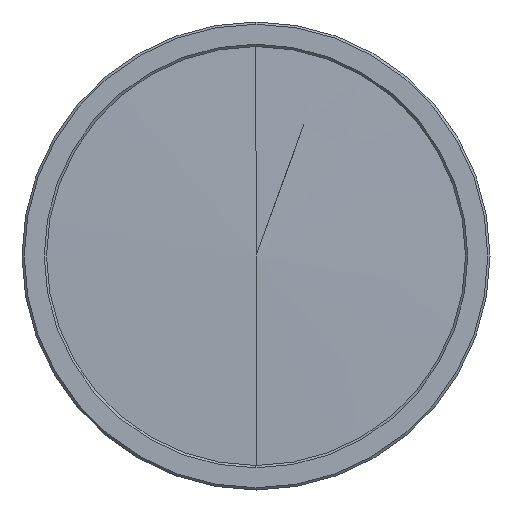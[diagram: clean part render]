
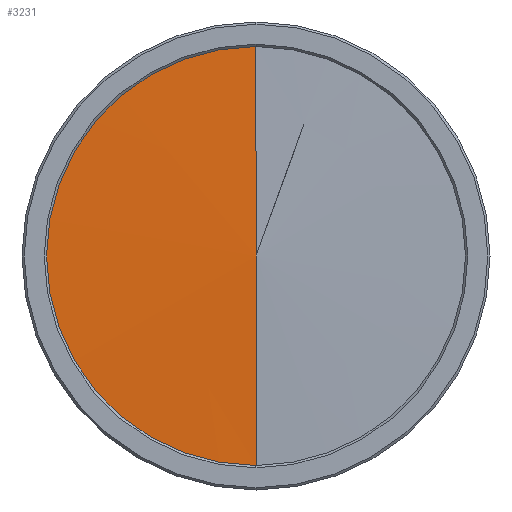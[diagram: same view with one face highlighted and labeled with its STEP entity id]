
A CAD part, left-side view. The second image highlights one B-rep face of the part: STEP entity #3231.
In plain terms, the highlighted conical face has half-angle 88.927 degrees and reference radius 29.134 mm.
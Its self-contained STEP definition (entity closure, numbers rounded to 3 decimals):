
#41 = VERTEX_POINT ( 'NONE', #3250 ) ;
#303 = DIRECTION ( 'NONE',  ( 0., 0., -1. ) ) ;
#327 = CARTESIAN_POINT ( 'NONE',  ( 0.52, 0., 27.75 ) ) ;
#548 = CARTESIAN_POINT ( 'NONE',  ( 0.52, 0., 0. ) ) ;
#679 = FACE_OUTER_BOUND ( 'NONE', #5721, .T. ) ;
#1062 = DIRECTION ( 'NONE',  ( 1., 0., 0. ) ) ;
#1390 = AXIS2_PLACEMENT_3D ( 'NONE', #3533, #3554, #303 ) ;
#1640 = DIRECTION ( 'NONE',  ( 0., 0., -1. ) ) ;
#1997 = CONICAL_SURFACE ( 'NONE', #1390, 29.134, 1.552 ) ;
#2054 = CARTESIAN_POINT ( 'NONE',  ( 0.546, 0., 29.134 ) ) ;
#2082 = DIRECTION ( 'NONE',  ( 1., 0., 0. ) ) ;
#2493 = LINE ( 'NONE', #2054, #6590 ) ;
#2674 = CARTESIAN_POINT ( 'NONE',  ( 0.52, 0., -27.75 ) ) ;
#2698 = EDGE_CURVE ( 'NONE', #5089, #4511, #2493, .T. ) ;
#3077 = VECTOR ( 'NONE', #4184, 1000. ) ;
#3155 = DIRECTION ( 'NONE',  ( 0., 0., -1. ) ) ;
#3231 = ADVANCED_FACE ( 'NONE', ( #679 ), #1997, .T. ) ;
#3250 = CARTESIAN_POINT ( 'NONE',  ( 0.52, 27.75, 0. ) ) ;
#3388 = EDGE_CURVE ( 'NONE', #5205, #41, #4883, .T. ) ;
#3533 = CARTESIAN_POINT ( 'NONE',  ( 0.546, 0., 0. ) ) ;
#3554 = DIRECTION ( 'NONE',  ( 1., 0., 0. ) ) ;
#3589 = ORIENTED_EDGE ( 'NONE', *, *, #4063, .F. ) ;
#4063 = EDGE_CURVE ( 'NONE', #5089, #5205, #5998, .T. ) ;
#4143 = DIRECTION ( 'NONE',  ( 0.019, 0., 1. ) ) ;
#4184 = DIRECTION ( 'NONE',  ( 0.019, 0., -1. ) ) ;
#4336 = ORIENTED_EDGE ( 'NONE', *, *, #5936, .F. ) ;
#4394 = ORIENTED_EDGE ( 'NONE', *, *, #2698, .T. ) ;
#4511 = VERTEX_POINT ( 'NONE', #327 ) ;
#4883 = CIRCLE ( 'NONE', #6794, 27.75 ) ;
#5089 = VERTEX_POINT ( 'NONE', #6078 ) ;
#5205 = VERTEX_POINT ( 'NONE', #2674 ) ;
#5721 = EDGE_LOOP ( 'NONE', ( #3589, #4394, #4336, #6326 ) ) ;
#5936 = EDGE_CURVE ( 'NONE', #41, #4511, #5978, .T. ) ;
#5978 = CIRCLE ( 'NONE', #6852, 27.75 ) ;
#5998 = LINE ( 'NONE', #6378, #3077 ) ;
#6078 = CARTESIAN_POINT ( 'NONE',  ( 0., 0., 0. ) ) ;
#6326 = ORIENTED_EDGE ( 'NONE', *, *, #3388, .F. ) ;
#6378 = CARTESIAN_POINT ( 'NONE',  ( 0.546, 0., -29.134 ) ) ;
#6590 = VECTOR ( 'NONE', #4143, 1000. ) ;
#6794 = AXIS2_PLACEMENT_3D ( 'NONE', #6970, #2082, #3155 ) ;
#6852 = AXIS2_PLACEMENT_3D ( 'NONE', #548, #1062, #1640 ) ;
#6970 = CARTESIAN_POINT ( 'NONE',  ( 0.52, 0., 0. ) ) ;
